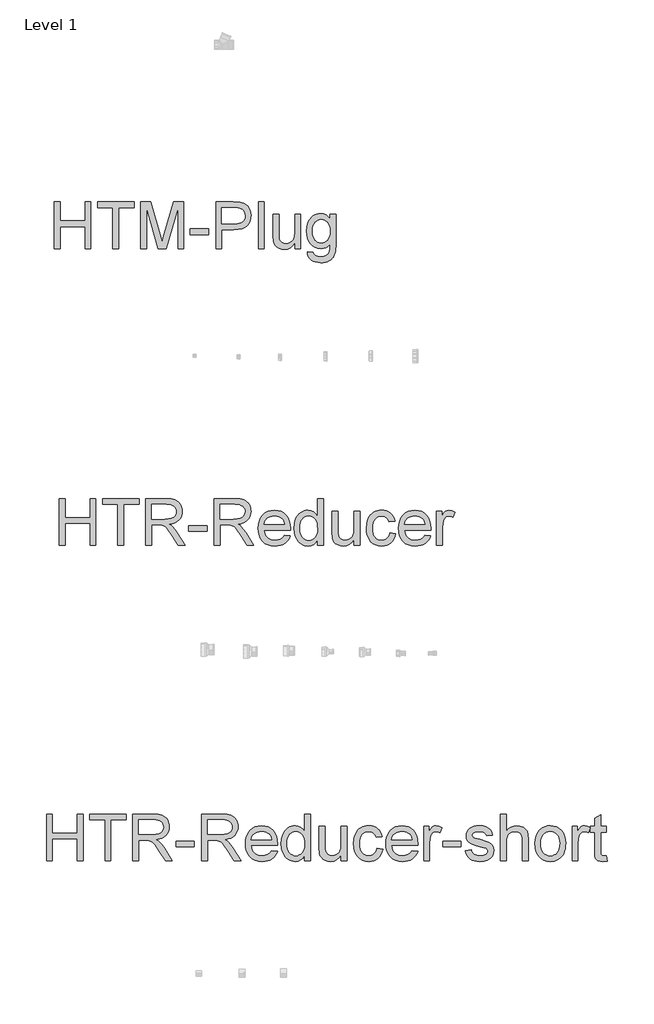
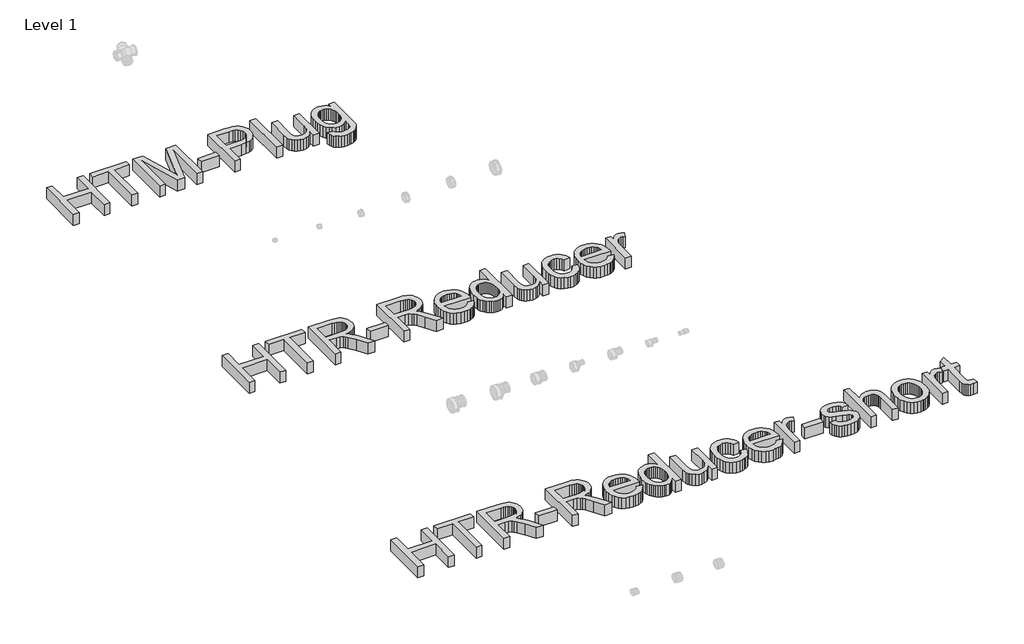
# One storey, part 10 of 29: 3 proxies.
"""IFC4 building model written with IfcOpenShell, lengths in millimetres."""

from ifc_helpers import new_model, si_unit, origin, origin_with_axes, place, context, project, spatial, polyline, outline, extrude, element, save

model = new_model("IFC4")

# Units and contexts
model_context = context("Model", 3, world=origin())
ifc_project = project(units=[si_unit("LENGTHUNIT", "METRE", prefix="MILLI")], contexts=[model_context])

# Site, building, storey
site = spatial("IfcSite", under=ifc_project)
building = spatial("IfcBuilding", under=site)
storey = spatial("IfcBuildingStorey", under=building, Name="Level 1", Elevation=0.0)

# Proxies
placement = place(None, origin())
element("IfcBuildingElementProxy", 1, Name="600mm Arial", ObjectType="600mm Arial", at=placement, inside=storey, context=model_context, shape_type="SweptSolid", body=[
    extrude(outline(polyline([(14896.3265646, -23338.82352), (14896.3265646, -22736.0856591), (14971.6687973, -22736.0856591), (14971.6687973, -22980.9479151), (15291.8732859, -22980.9479151), (15291.8732859, -22736.0856591), (15367.2155185, -22736.0856591), (15367.2155185, -23338.82352), (15291.8732859, -23338.82352), (15291.8732859, -23056.2901477), (14971.6687973, -23056.2901477), (14971.6687973, -23338.82352), (14896.3265646, -23338.82352)])), origin_with_axes(), (0.0, 0.0, 1.0), 150.0),
    extrude(outline(polyline([(15649.7488908, -23338.82352), (15649.7488908, -22811.4278917), (15451.9755302, -22811.4278917), (15451.9755302, -22736.0856591), (15922.864484, -22736.0856591), (15922.864484, -22811.4278917), (15725.0911234, -22811.4278917), (15725.0911234, -23338.82352), (15649.7488908, -23338.82352)])), origin_with_axes(), (0.0, 0.0, 1.0), 150.0),
    extrude(outline(polyline([(16007.6244957, -23338.82352), (16007.6244957, -22736.0856591), (16137.2661108, -22736.0856591), (16260.5801556, -23160.9157871), (16285.4489784, -23249.6489243), (16312.3779405, -23153.5581472), (16433.6318461, -22736.0856591), (16563.2734612, -22736.0856591), (16563.2734612, -23338.82352), (16487.9312286, -23338.82352), (16487.9312286, -22811.4278917), (16336.5109994, -23338.82352), (16234.3869575, -23338.82352), (16082.9667283, -22811.4278917), (16082.9667283, -23338.82352), (16007.6244957, -23338.82352)])), origin_with_axes(), (0.0, 0.0, 1.0), 150.0),
    extrude(outline(polyline([(16648.0334729, -23159.8857175), (16648.0334729, -23084.5434849), (16883.4779498, -23084.5434849), (16883.4779498, -23159.8857175), (16648.0334729, -23159.8857175)])), origin_with_axes(), (0.0, 0.0, 1.0), 150.0),
    extrude(outline(polyline([(16977.6557406, -23338.82352), (16977.6557406, -22736.0856591), (17201.033688, -22736.0856591), (17253.0522021, -22737.5203988), (17291.0912004, -22741.8246182), (17331.2455202, -22752.5483784), (17364.2997175, -22770.004379), (17390.9159798, -22794.9835665), (17411.7564949, -22828.2768871), (17425.2209759, -22867.54829), (17429.7091362, -22910.4617248), (17426.6787083, -22947.4614564), (17417.5874245, -22981.4997381), (17402.4352848, -23012.5765696), (17381.2222893, -23040.6919511), (17352.0998308, -23063.9972755), (17313.2193025, -23080.6439358), (17264.5807042, -23090.6319319), (17206.184036, -23093.961264), (17052.9979732, -23093.961264), (17052.9979732, -23338.82352), (16977.6557406, -23338.82352)]), holes=[polyline([(17052.9979732, -23018.6190314), (17210.5986199, -23018.6190314), (17246.8349964, -23016.889986), (17277.4059902, -23011.7028499), (17302.3116013, -23003.057623), (17321.5518296, -22990.9543053), (17335.9084245, -22975.7147937), (17346.1631351, -22957.6609848), (17352.3159615, -22936.7928786), (17354.3669036, -22913.1104751), (17349.5292554, -22879.2653316), (17335.0163107, -22850.7176888), (17312.6306913, -22829.2333802), (17284.1750189, -22816.5782396), (17255.1123413, -22812.7154787), (17208.8327863, -22811.4278917), (17052.9979732, -22811.4278917), (17052.9979732, -23018.6190314)])]), origin_with_axes(), (0.0, 0.0, 1.0), 150.0),
    extrude(outline(polyline([(17523.886927, -23338.82352), (17523.886927, -22736.0856591), (17599.2291596, -22736.0856591), (17599.2291596, -23338.82352), (17523.886927, -23338.82352)])), origin_with_axes(), (0.0, 0.0, 1.0), 150.0),
    extrude(outline(polyline([(17994.7758808, -23338.82352), (17994.7758808, -23262.7455234), (17967.515825, -23300.1499252), (17935.7676088, -23326.8673551), (17899.5312323, -23342.8978131), (17858.8066954, -23348.241299), (17822.1104664, -23344.4889027), (17787.9526231, -23333.2317136), (17759.2946157, -23316.3091419), (17739.0978942, -23295.5605973), (17725.5046544, -23270.3606807), (17716.6570925, -23240.0839925), (17712.2425085, -23170.0392606), (17712.2425085, -22896.1879034), (17787.5847411, -22896.1879034), (17787.5847411, -23134.5754362), (17788.7251753, -23182.2529428), (17792.1464779, -23211.3891968), (17803.1277554, -23237.0121778), (17821.9449195, -23256.4915294), (17847.3471712, -23268.7971822), (17878.0837119, -23272.8990664), (17910.5860862, -23268.7052117), (17940.9915331, -23256.1236474), (17966.0626911, -23236.313202), (17982.5621986, -23210.4327036), (17991.7224603, -23174.9872734), (17994.7758808, -23126.4820323), (17994.7758808, -22896.1879034), (18070.1181134, -22896.1879034), (18070.1181134, -23338.82352), (17994.7758808, -23338.82352)])), origin_with_axes(), (0.0, 0.0, 1.0), 150.0),
    extrude(outline(polyline([(18154.8781251, -23376.4946363), (18230.2203577, -23385.9124153), (18238.5344908, -23409.456863), (18254.6477222, -23425.6436708), (18286.322362, -23438.2252351), (18327.7826629, -23442.4190898), (18372.0020787, -23437.6734121), (18389.8627495, -23431.7413149), (18404.890729, -23423.4363789), (18427.6994127, -23400.6276952), (18441.6789286, -23370.167066), (18445.7624187, -23337.7566622), (18446.8292765, -23282.3168455), (18421.7581185, -23307.0385156), (18393.7806928, -23324.6968514), (18362.8969993, -23335.2918528), (18329.107038, -23338.82352), (18287.7984885, -23334.7124387), (18251.4287548, -23322.3791948), (18219.9978368, -23301.8237883), (18193.5057346, -23273.0462192), (18172.4858771, -23238.520494), (18157.4716932, -23200.720619), (18148.4631828, -23159.6465942), (18145.460346, -23115.2984197), (18150.8498173, -23054.4691318), (18167.018231, -22998.5326744), (18179.001987, -22973.3097651), (18193.39537, -22951.1310793), (18210.1983801, -22931.9966171), (18229.4110173, -22915.9063783), (18250.7251804, -22903.1592672), (18273.8327683, -22894.0541878), (18298.7337808, -22888.5911402), (18325.4282181, -22886.7701243), (18360.6621162, -22890.8904026), (18392.6402586, -22903.2512377), (18421.3626454, -22923.8526294), (18446.8292765, -22952.6945778), (18446.8292765, -22896.1879034), (18522.1715091, -22896.1879034), (18522.1715091, -23278.34372), (18517.0211612, -23366.5802165), (18510.5832263, -23399.399889), (18501.5701174, -23424.6871776), (18489.7657039, -23445.0816357), (18474.953855, -23463.2228166), (18457.1345709, -23479.1107203), (18436.3078514, -23492.7453467), (18412.6852288, -23503.6898361), (18386.4782352, -23511.5073285), (18357.6868705, -23516.1978239), (18326.3111349, -23517.7613224), (18289.3987752, -23515.558629), (18256.2112207, -23508.9505486), (18226.7484714, -23497.9370814), (18201.0105273, -23482.5182273), (18180.2205961, -23462.6755922), (18165.6018853, -23438.390782), (18157.154395, -23409.6637967), (18154.8781251, -23376.4946363)]), holes=[polyline([(18220.8025787, -23110.1480718), (18222.8121341, -23147.4007223), (18228.8408002, -23179.2547046), (18238.8885772, -23205.7100185), (18252.955465, -23226.7666642), (18270.0573793, -23242.8293118), (18289.2102357, -23254.3026316), (18310.4140342, -23261.1866234), (18333.6687748, -23263.4812874), (18356.6935891, -23261.200419), (18377.7962201, -23254.3578139), (18396.9766676, -23242.953472), (18414.2349317, -23226.9873934), (18428.4949576, -23206.1376814), (18438.6806903, -23180.082439), (18444.7921299, -23148.8216665), (18446.8292765, -23112.3553637), (18444.7323491, -23077.4111727), (18438.441567, -23047.0379155), (18427.9569301, -23021.2355921), (18413.2784385, -23000.0042024), (18395.6476939, -22983.42652), (18376.306298, -22971.5853183), (18355.2542508, -22964.4805972), (18332.4915524, -22962.1123569), (18310.1105315, -22964.443809), (18289.4677531, -22971.4381655), (18270.563217, -22983.0954262), (18253.3969234, -22999.4155912), (18239.1368976, -23020.3250841), (18228.9511648, -23045.7503285), (18222.8397252, -23075.6913244), (18220.8025787, -23110.1480718)])]), origin_with_axes(), (0.0, 0.0, 1.0), 150.0),
])
element("IfcBuildingElementProxy", 2, Name="600mm Arial", ObjectType="600mm Arial", at=placement, inside=storey, context=model_context, shape_type="SweptSolid", body=[
    extrude(outline(polyline([(14960.4744805, -27157.1902945), (14960.4744805, -26554.4524336), (15035.8167131, -26554.4524336), (15035.8167131, -26799.3146896), (15356.0212018, -26799.3146896), (15356.0212018, -26554.4524336), (15431.3634344, -26554.4524336), (15431.3634344, -27157.1902945), (15356.0212018, -27157.1902945), (15356.0212018, -26874.6569222), (15035.8167131, -26874.6569222), (15035.8167131, -27157.1902945), (14960.4744805, -27157.1902945)])), origin_with_axes(), (0.0, 0.0, 1.0), 150.0),
    extrude(outline(polyline([(15713.8968067, -27157.1902945), (15713.8968067, -26629.7946662), (15516.1234461, -26629.7946662), (15516.1234461, -26554.4524336), (15987.0123999, -26554.4524336), (15987.0123999, -26629.7946662), (15789.2390393, -26629.7946662), (15789.2390393, -27157.1902945), (15713.8968067, -27157.1902945)])), origin_with_axes(), (0.0, 0.0, 1.0), 150.0),
    extrude(outline(polyline([(16071.7724116, -27157.1902945), (16071.7724116, -26554.4524336), (16331.4971002, -26554.4524336), (16401.3027087, -26558.5175296), (16452.0888182, -26570.7128178), (16471.6877315, -26580.4065083), (16489.2081115, -26593.2271959), (16504.6499582, -26609.1748804), (16518.0132717, -26628.2495618), (16528.7968127, -26649.4257692), (16536.499342, -26671.6780313), (16541.1208595, -26695.0063484), (16542.6613654, -26719.4107202), (16540.1091841, -26750.3679901), (16532.45264, -26778.7868742), (16519.6917333, -26804.6673726), (16501.8264639, -26828.0094852), (16478.6269056, -26848.068251), (16449.8631321, -26864.0987089), (16415.5351434, -26876.100859), (16375.6429396, -26884.0747013), (16400.4749743, -26900.2982972), (16418.4644038, -26916.301164), (16449.3297032, -26952.9054226), (16479.532815, -26993.8506886), (16580.0381761, -27157.1902945), (16492.4822613, -27157.1902945), (16414.0498199, -27032.2575689), (16357.3959926, -26949.5576964), (16336.3347484, -26925.4430316), (16317.5911607, -26910.4886285), (16281.7594544, -26896.1412307), (16238.0550734, -26893.4924803), (16147.1146442, -26893.4924803), (16147.1146442, -27157.1902945), (16071.7724116, -27157.1902945)]), holes=[polyline([(16147.1146442, -26818.1502477), (16315.7517508, -26818.1502477), (16364.1834154, -26815.4831033), (16401.7625612, -26807.4816699), (16430.0526867, -26793.6125186), (16450.6172902, -26773.3422207), (16463.1436721, -26748.8228857), (16467.3191328, -26722.2066234), (16465.3279715, -26702.9388039), (16459.3544876, -26685.4552121), (16449.3986811, -26669.7558479), (16435.460552, -26655.8407114), (16417.2182036, -26644.4455666), (16394.349739, -26636.3061775), (16366.8551584, -26631.422544), (16334.7344617, -26629.7946662), (16147.1146442, -26629.7946662), (16147.1146442, -26818.1502477)])]), origin_with_axes(), (0.0, 0.0, 1.0), 150.0),
    extrude(outline(polyline([(16627.4213771, -26978.252492), (16627.4213771, -26902.9102594), (16862.865854, -26902.9102594), (16862.865854, -26978.252492), (16627.4213771, -26978.252492)])), origin_with_axes(), (0.0, 0.0, 1.0), 150.0),
    extrude(outline(polyline([(16957.0436448, -27157.1902945), (16957.0436448, -26554.4524336), (17216.7683334, -26554.4524336), (17286.5739419, -26558.5175296), (17337.3600514, -26570.7128178), (17356.9589647, -26580.4065083), (17374.4793447, -26593.2271959), (17389.9211914, -26609.1748804), (17403.2845049, -26628.2495618), (17414.0680459, -26649.4257692), (17421.7705752, -26671.6780313), (17426.3920927, -26695.0063484), (17427.9325986, -26719.4107202), (17425.3804172, -26750.3679901), (17417.7238732, -26778.7868742), (17404.9629665, -26804.6673726), (17387.0976971, -26828.0094852), (17363.8981388, -26848.068251), (17335.1343653, -26864.0987089), (17300.8063766, -26876.100859), (17260.9141728, -26884.0747013), (17285.7462074, -26900.2982972), (17303.735637, -26916.301164), (17334.6009364, -26952.9054226), (17364.8040482, -26993.8506886), (17465.3094093, -27157.1902945), (17377.7534944, -27157.1902945), (17299.3210531, -27032.2575689), (17242.6672258, -26949.5576964), (17221.6059816, -26925.4430316), (17202.8623939, -26910.4886285), (17167.0306876, -26896.1412307), (17123.3263066, -26893.4924803), (17032.3858774, -26893.4924803), (17032.3858774, -27157.1902945), (16957.0436448, -27157.1902945)]), holes=[polyline([(17032.3858774, -26818.1502477), (17201.022984, -26818.1502477), (17249.4546486, -26815.4831033), (17287.0337944, -26807.4816699), (17315.3239199, -26793.6125186), (17335.8885234, -26773.3422207), (17348.4149053, -26748.8228857), (17352.590366, -26722.2066234), (17350.5992047, -26702.9388039), (17344.6257208, -26685.4552121), (17334.6699143, -26669.7558479), (17320.7317852, -26655.8407114), (17302.4894368, -26644.4455666), (17279.6209722, -26636.3061775), (17252.1263916, -26631.422544), (17220.0056949, -26629.7946662), (17032.3858774, -26629.7946662), (17032.3858774, -26818.1502477)])]), origin_with_axes(), (0.0, 0.0, 1.0), 150.0),
    extrude(outline(polyline([(17860.2675193, -27025.3413874), (17934.1382239, -27034.7591665), (17922.812057, -27064.3460759), (17907.5219616, -27090.4197123), (17888.2679377, -27112.9800757), (17865.0499853, -27132.027166), (17838.1072276, -27147.1563131), (17807.6787881, -27157.9628467), (17773.7646667, -27164.4467668), (17736.3648633, -27166.6080735), (17689.6162588, -27162.8786698), (17647.9628199, -27151.6904586), (17611.4045466, -27133.04344), (17579.941439, -27106.9376139), (17554.6403548, -27074.0995473), (17536.5681518, -27035.2558072), (17525.72483, -26990.4063934), (17522.1103894, -26939.5513061), (17525.7616182, -26886.971772), (17536.7153046, -26840.6278376), (17554.9714486, -26800.5195031), (17580.5300502, -26766.6467684), (17611.9103844, -26739.7362004), (17647.6317261, -26720.5143662), (17687.6940754, -26708.9812656), (17732.0974322, -26705.1368988), (17775.0706478, -26708.9720686), (17813.932782, -26720.477578), (17848.683835, -26739.653427), (17879.3238067, -26766.4996156), (17904.3351838, -26800.2987739), (17922.2004532, -26840.333532), (17932.9196148, -26886.60389), (17936.4926687, -26939.1098477), (17936.0512103, -26959.4169339), (17597.452622, -26959.4169339), (17601.8166221, -26989.4820899), (17610.4940387, -27015.8132437), (17623.4848716, -27038.4103953), (17640.789121, -27057.2735446), (17661.4502935, -27072.1451742), (17684.5118961, -27082.7677668), (17709.9739287, -27089.1413224), (17737.8363913, -27091.2658409), (17777.9355288, -27087.3295036), (17811.707096, -27075.5204915), (17839.1510928, -27055.1030408), (17860.2675193, -27025.3413874)]), holes=[polyline([(17597.452622, -26884.0747013), (17861.1504361, -26884.0747013), (17850.9601048, -26844.2698694), (17842.1953163, -26828.6164905), (17830.9841125, -26815.7958029), (17810.4379031, -26800.3447592), (17787.0590023, -26789.3082993), (17760.8474101, -26782.6864234), (17731.8031266, -26780.4791314), (17705.3110244, -26782.2403665), (17681.0170172, -26787.5240716), (17658.9211048, -26796.3302469), (17639.0232874, -26808.6588922), (17622.3260434, -26823.9397906), (17609.8318511, -26841.6027249), (17601.5407106, -26861.6476951), (17597.452622, -26884.0747013)])]), origin_with_axes(), (0.0, 0.0, 1.0), 150.0),
    extrude(outline(polyline([(18284.9504945, -27157.1902945), (18284.9504945, -27086.115493), (18262.4085253, -27121.330997), (18235.1024842, -27146.4849284), (18203.0323713, -27161.5772873), (18166.1981865, -27166.6080735), (18141.3293636, -27164.7870577), (18117.4906103, -27159.32401), (18094.6819266, -27150.2189307), (18072.9033125, -27137.4718195), (18052.8353497, -27121.4643542), (18035.1586198, -27102.5782123), (18019.8731229, -27080.8133937), (18006.978859, -27056.1698986), (17996.7425425, -27029.1167764), (17989.4308878, -27000.1230766), (17983.5815641, -26936.3139446), (17988.9710353, -26873.2957588), (18005.139449, -26816.3844141), (18017.2611608, -26791.0281476), (18032.0684111, -26768.8172722), (18049.5611999, -26749.7517878), (18069.7395274, -26733.8316944), (18091.890622, -26721.2777213), (18115.3017125, -26712.3105977), (18139.9727988, -26706.9303235), (18165.9038809, -26705.1368988), (18202.7656568, -26710.2688526), (18235.3600016, -26725.6647141), (18262.9879394, -26749.2643441), (18284.9504945, -26779.0076034), (18284.9504945, -26554.4524336), (18360.2927272, -26554.4524336), (18360.2927272, -27157.1902945), (18284.9504945, -27157.1902945)]), holes=[polyline([(18058.9237967, -26936.019639), (18061.0483152, -26972.5549196), (18067.4218708, -27004.1697786), (18078.0444634, -27030.8642159), (18092.9160931, -27052.6382314), (18110.6755964, -27069.5378106), (18129.96181, -27081.6089386), (18150.7747339, -27088.8516153), (18173.114368, -27091.2658409), (18195.5597682, -27088.9619799), (18216.248532, -27082.050397), (18235.1806591, -27070.531092), (18252.3561498, -27054.404065), (18266.6161756, -27033.5405574), (18276.8019084, -27007.8118103), (18282.913348, -26977.2178239), (18284.9504945, -26941.7585981), (18282.8765598, -26902.8826683), (18276.6547556, -26869.5433624), (18266.2850818, -26841.7406807), (18251.7675386, -26819.4746229), (18234.2149689, -26802.4140954), (18214.7402158, -26790.2280043), (18193.3432792, -26782.9163496), (18170.0241593, -26780.4791314), (18147.2430667, -26782.8197806), (18126.4301428, -26789.8417282), (18107.5853876, -26801.5449742), (18090.7088011, -26817.9295185), (18076.8028617, -26839.3540462), (18066.8700478, -26866.1772422), (18060.9103595, -26898.3991064), (18058.9237967, -26936.019639)])]), origin_with_axes(), (0.0, 0.0, 1.0), 150.0),
    extrude(outline(polyline([(18755.8394484, -27157.1902945), (18755.8394484, -27081.1122979), (18728.5793925, -27118.5166997), (18696.8311763, -27145.2341296), (18660.5947998, -27161.2645876), (18619.870263, -27166.6080735), (18583.1740339, -27162.8556772), (18549.0161907, -27151.5984881), (18520.3581833, -27134.6759164), (18500.1614617, -27113.9273718), (18486.568222, -27088.7274552), (18477.72066, -27058.450767), (18473.3060761, -26988.4060351), (18473.3060761, -26714.5546779), (18548.6483087, -26714.5546779), (18548.6483087, -26952.9422108), (18549.7887429, -27000.6197173), (18553.2100454, -27029.7559713), (18564.191323, -27055.3789523), (18583.008487, -27074.858304), (18608.4107388, -27087.1639567), (18639.1472795, -27091.2658409), (18671.6496538, -27087.0719862), (18702.0551007, -27074.490422), (18727.1262587, -27054.6799765), (18743.6257661, -27028.7994782), (18752.7860278, -26993.3540479), (18755.8394484, -26944.8488069), (18755.8394484, -26714.5546779), (18831.181681, -26714.5546779), (18831.181681, -27157.1902945), (18755.8394484, -27157.1902945)])), origin_with_axes(), (0.0, 0.0, 1.0), 150.0),
    extrude(outline(polyline([(19217.3106231, -26997.0880502), (19292.6528557, -27006.5058292), (19284.4582843, -27042.0570256), (19271.6467938, -27073.5155347), (19254.2183843, -27100.8813566), (19232.1730557, -27124.1544913), (19206.4397102, -27142.7279335), (19177.9472496, -27155.994678), (19146.6956742, -27163.9547247), (19112.6849837, -27166.6080735), (19070.429138, -27162.906261), (19032.541891, -27151.8008232), (18999.0232428, -27133.2917604), (18969.8731932, -27107.3790723), (18946.2781617, -27074.5502028), (18929.4245678, -27035.2925954), (18919.3124115, -26989.6062501), (18915.9416927, -26937.491167), (18921.6990459, -26870.4446733), (18928.8957374, -26840.2737512), (18938.9711056, -26812.3377122), (18951.9941282, -26787.1975763), (18968.0337832, -26765.4143637), (18987.0900705, -26746.9880743), (19009.1629903, -26731.918708), (19033.2546624, -26720.2016665), (19058.3672071, -26711.8323511), (19084.5006243, -26706.8107619), (19111.6549141, -26705.1368988), (19145.0815919, -26707.4361613), (19175.3168934, -26714.3339487), (19202.3608185, -26725.830261), (19226.2133674, -26741.9250983), (19246.4698698, -26762.2505786), (19262.7256554, -26786.4388197), (19274.9807244, -26814.4898219), (19283.2350767, -26846.4035849), (19207.892844, -26855.821364), (19194.2260279, -26822.9511078), (19172.9440545, -26799.388266), (19145.2241462, -26785.206415), (19112.2435253, -26780.4791314), (19086.643537, -26782.805985), (19063.5543432, -26789.7865459), (19042.9759441, -26801.420814), (19024.9083396, -26817.7087893), (19010.1976584, -26839.0275509), (18999.6900289, -26865.7541779), (18993.3854512, -26897.8886702), (18991.2839253, -26935.4310278), (18993.3394659, -26973.539004), (18999.5060879, -27006.0459768), (19009.7837911, -27032.9519462), (19024.1725757, -27054.2569122), (19041.8814952, -27070.4483185), (19062.1196035, -27082.0136088), (19084.8869004, -27088.9527829), (19110.1833861, -27091.2658409), (19149.1972717, -27085.4900936), (19166.0692597, -27078.2704095), (19181.1846112, -27068.1628516), (19194.1202619, -27055.0570556), (19204.4531474, -27038.8426566), (19212.1832678, -27019.5196548), (19217.3106231, -26997.0880502)])), origin_with_axes(), (0.0, 0.0, 1.0), 150.0),
    extrude(outline(polyline([(19668.481102, -27025.3413874), (19742.3518066, -27034.7591665), (19731.0256397, -27064.3460759), (19715.7355443, -27090.4197123), (19696.4815204, -27112.9800757), (19673.2635679, -27132.027166), (19646.3208103, -27147.1563131), (19615.8923708, -27157.9628467), (19581.9782494, -27164.4467668), (19544.578446, -27166.6080735), (19497.8298415, -27162.8786698), (19456.1764026, -27151.6904586), (19419.6181293, -27133.04344), (19388.1550217, -27106.9376139), (19362.8539375, -27074.0995473), (19344.7817345, -27035.2558072), (19333.9384126, -26990.4063934), (19330.323972, -26939.5513061), (19333.9752008, -26886.971772), (19344.9288873, -26840.6278376), (19363.1850313, -26800.5195031), (19388.7436329, -26766.6467684), (19420.1239671, -26739.7362004), (19455.8453088, -26720.5143662), (19495.9076581, -26708.9812656), (19540.3110149, -26705.1368988), (19583.2842305, -26708.9720686), (19622.1463647, -26720.477578), (19656.8974177, -26739.653427), (19687.5373894, -26766.4996156), (19712.5487665, -26800.2987739), (19730.4140359, -26840.333532), (19741.1331975, -26886.60389), (19744.7062514, -26939.1098477), (19744.264793, -26959.4169339), (19405.6662047, -26959.4169339), (19410.0302048, -26989.4820899), (19418.7076214, -27015.8132437), (19431.6984543, -27038.4103953), (19449.0027037, -27057.2735446), (19469.6638762, -27072.1451742), (19492.7254788, -27082.7677668), (19518.1875114, -27089.1413224), (19546.049974, -27091.2658409), (19586.1491115, -27087.3295036), (19619.9206786, -27075.5204915), (19647.3646755, -27055.1030408), (19668.481102, -27025.3413874)]), holes=[polyline([(19405.6662047, -26884.0747013), (19669.3640188, -26884.0747013), (19659.1736875, -26844.2698694), (19650.408899, -26828.6164905), (19639.1976952, -26815.7958029), (19618.6514858, -26800.3447592), (19595.272585, -26789.3082993), (19569.0609928, -26782.6864234), (19540.0167093, -26780.4791314), (19513.5246071, -26782.2403665), (19489.2305999, -26787.5240716), (19467.1346875, -26796.3302469), (19447.2368701, -26808.6588922), (19430.5396261, -26823.9397906), (19418.0454338, -26841.6027249), (19409.7542933, -26861.6476951), (19405.6662047, -26884.0747013)])]), origin_with_axes(), (0.0, 0.0, 1.0), 150.0),
    extrude(outline(polyline([(19820.048484, -27157.1902945), (19820.048484, -26714.5546779), (19885.9729376, -26714.5546779), (19885.9729376, -26780.037673), (19910.3267256, -26742.0722511), (19932.7675273, -26719.7050258), (19955.2819055, -26708.7789306), (19979.8564227, -26705.1368988), (20017.3803862, -26710.9494343), (20055.4929609, -26728.3870409), (20030.3298325, -26795.9301752), (20003.8423288, -26784.3418924), (19977.3548252, -26780.4791314), (19954.8588412, -26784.1947396), (19934.7540901, -26795.341564), (19918.5121, -26813.0734762), (19907.6043989, -26836.5443475), (19898.4441372, -26878.6300477), (19895.3907166, -26924.5417207), (19895.3907166, -27157.1902945), (19820.048484, -27157.1902945)])), origin_with_axes(), (0.0, 0.0, 1.0), 150.0),
])
element("IfcBuildingElementProxy", 3, Name="600mm Arial", ObjectType="600mm Arial", at=placement, inside=storey, context=model_context, shape_type="SweptSolid", body=[
    extrude(outline(polyline([(14795.2103722, -31217.4578253), (14795.2103722, -30614.7199644), (14870.5526048, -30614.7199644), (14870.5526048, -30859.5822204), (15190.7570935, -30859.5822204), (15190.7570935, -30614.7199644), (15266.0993261, -30614.7199644), (15266.0993261, -31217.4578253), (15190.7570935, -31217.4578253), (15190.7570935, -30934.924453), (14870.5526048, -30934.924453), (14870.5526048, -31217.4578253), (14795.2103722, -31217.4578253)])), origin_with_axes(), (0.0, 0.0, 1.0), 150.0),
    extrude(outline(polyline([(15548.6326984, -31217.4578253), (15548.6326984, -30690.062197), (15350.8593378, -30690.062197), (15350.8593378, -30614.7199644), (15821.7482916, -30614.7199644), (15821.7482916, -30690.062197), (15623.974931, -30690.062197), (15623.974931, -31217.4578253), (15548.6326984, -31217.4578253)])), origin_with_axes(), (0.0, 0.0, 1.0), 150.0),
    extrude(outline(polyline([(15906.5083033, -31217.4578253), (15906.5083033, -30614.7199644), (16166.2329919, -30614.7199644), (16236.0386004, -30618.7850605), (16286.8247099, -30630.9803486), (16306.4236232, -30640.6740392), (16323.9440032, -30653.4947267), (16339.3858499, -30669.4424112), (16352.7491634, -30688.5170926), (16363.5327044, -30709.6933), (16371.2352337, -30731.9455622), (16375.8567512, -30755.2738792), (16377.3972571, -30779.6782511), (16374.8450758, -30810.6355209), (16367.1885317, -30839.0544051), (16354.427625, -30864.9349034), (16336.5623556, -30888.277016), (16313.3627973, -30908.3357818), (16284.5990238, -30924.3662398), (16250.2710351, -30936.3683898), (16210.3788313, -30944.3422321), (16235.210866, -30960.5658281), (16253.2002955, -30976.5686949), (16284.0655949, -31013.1729534), (16314.2687067, -31054.1182195), (16414.7740678, -31217.4578253), (16327.218153, -31217.4578253), (16248.7857116, -31092.5250998), (16192.1318843, -31009.8252272), (16171.0706401, -30985.7105625), (16152.3270524, -30970.7561593), (16116.4953461, -30956.4087615), (16072.7909651, -30953.7600112), (15981.8505359, -30953.7600112), (15981.8505359, -31217.4578253), (15906.5083033, -31217.4578253)]), holes=[polyline([(15981.8505359, -30878.4177786), (16150.4876425, -30878.4177786), (16198.9193071, -30875.7506341), (16236.4984529, -30867.7492007), (16264.7885784, -30853.8800495), (16285.3531819, -30833.6097515), (16297.8795638, -30809.0904166), (16302.0550245, -30782.4741542), (16300.0638632, -30763.2063347), (16294.0903793, -30745.7227429), (16284.1345728, -30730.0233788), (16270.1964437, -30716.1082423), (16251.9540953, -30704.7130975), (16229.0856307, -30696.5737083), (16201.5910501, -30691.6900749), (16169.4703534, -30690.062197), (15981.8505359, -30690.062197), (15981.8505359, -30878.4177786)])]), origin_with_axes(), (0.0, 0.0, 1.0), 150.0),
    extrude(outline(polyline([(16462.1572688, -31038.5200229), (16462.1572688, -30963.1777902), (16697.6017457, -30963.1777902), (16697.6017457, -31038.5200229), (16462.1572688, -31038.5200229)])), origin_with_axes(), (0.0, 0.0, 1.0), 150.0),
    extrude(outline(polyline([(16791.7795365, -31217.4578253), (16791.7795365, -30614.7199644), (17051.5042251, -30614.7199644), (17121.3098336, -30618.7850605), (17172.0959431, -30630.9803486), (17191.6948564, -30640.6740392), (17209.2152364, -30653.4947267), (17224.6570831, -30669.4424112), (17238.0203966, -30688.5170926), (17248.8039376, -30709.6933), (17256.5064669, -30731.9455622), (17261.1279844, -30755.2738792), (17262.6684903, -30779.6782511), (17260.1163089, -30810.6355209), (17252.4597649, -30839.0544051), (17239.6988582, -30864.9349034), (17221.8335888, -30888.277016), (17198.6340305, -30908.3357818), (17169.870257, -30924.3662398), (17135.5422683, -30936.3683898), (17095.6500645, -30944.3422321), (17120.4820992, -30960.5658281), (17138.4715287, -30976.5686949), (17169.3368281, -31013.1729534), (17199.5399399, -31054.1182195), (17300.045301, -31217.4578253), (17212.4893861, -31217.4578253), (17134.0569448, -31092.5250998), (17077.4031175, -31009.8252272), (17056.3418733, -30985.7105625), (17037.5982856, -30970.7561593), (17001.7665793, -30956.4087615), (16958.0621983, -30953.7600112), (16867.1217691, -30953.7600112), (16867.1217691, -31217.4578253), (16791.7795365, -31217.4578253)]), holes=[polyline([(16867.1217691, -30878.4177786), (17035.7588757, -30878.4177786), (17084.1905403, -30875.7506341), (17121.7696861, -30867.7492007), (17150.0598116, -30853.8800495), (17170.6244151, -30833.6097515), (17183.150797, -30809.0904166), (17187.3262577, -30782.4741542), (17185.3350964, -30763.2063347), (17179.3616125, -30745.7227429), (17169.405806, -30730.0233788), (17155.4676769, -30716.1082423), (17137.2253285, -30704.7130975), (17114.3568639, -30696.5737083), (17086.8622833, -30691.6900749), (17054.7415866, -30690.062197), (16867.1217691, -30690.062197), (16867.1217691, -30878.4177786)])]), origin_with_axes(), (0.0, 0.0, 1.0), 150.0),
    extrude(outline(polyline([(17695.003411, -31085.6089182), (17768.8741157, -31095.0266973), (17757.5479487, -31124.6136068), (17742.2578533, -31150.6872432), (17723.0038294, -31173.2476065), (17699.785877, -31192.2946968), (17672.8431193, -31207.4238439), (17642.4146798, -31218.2303775), (17608.5005584, -31224.7142977), (17571.100755, -31226.8756044), (17524.3521505, -31223.1462007), (17482.6987116, -31211.9579895), (17446.1404383, -31193.3109709), (17414.6773307, -31167.2051448), (17389.3762465, -31134.3670782), (17371.3040435, -31095.523338), (17360.4607217, -31050.6739243), (17356.8462811, -30999.818837), (17360.4975099, -30947.2393028), (17371.4511963, -30900.8953685), (17389.7073403, -30860.7870339), (17415.2659419, -30826.9142992), (17446.6462761, -30800.0037313), (17482.3676178, -30780.781897), (17522.4299671, -30769.2487965), (17566.8333239, -30765.4044296), (17609.8065395, -30769.2395994), (17648.6686737, -30780.7451088), (17683.4197267, -30799.9209578), (17714.0596984, -30826.7671464), (17739.0710755, -30860.5663047), (17756.9363449, -30900.6010629), (17767.6555065, -30946.8714208), (17771.2285604, -30999.3773786), (17770.787102, -31019.6844647), (17432.1885137, -31019.6844647), (17436.5525138, -31049.7496208), (17445.2299304, -31076.0807746), (17458.2207633, -31098.6779261), (17475.5250127, -31117.5410754), (17496.1861853, -31132.4127051), (17519.2477878, -31143.0352977), (17544.7098204, -31149.4088533), (17572.572283, -31151.5333718), (17612.6714205, -31147.5970344), (17646.4429877, -31135.7880224), (17673.8869845, -31115.3705717), (17695.003411, -31085.6089182)]), holes=[polyline([(17432.1885137, -30944.3422321), (17695.8863278, -30944.3422321), (17685.6959965, -30904.5374002), (17676.931208, -30888.8840213), (17665.7200042, -30876.0633338), (17645.1737948, -30860.61229), (17621.794894, -30849.5758301), (17595.5833018, -30842.9539542), (17566.5390183, -30840.7466623), (17540.0469161, -30842.5078973), (17515.7529089, -30847.7916025), (17493.6569965, -30856.5977777), (17473.7591791, -30868.9264231), (17457.0619351, -30884.2073215), (17444.5677428, -30901.8702558), (17436.2766023, -30921.915226), (17432.1885137, -30944.3422321)])]), origin_with_axes(), (0.0, 0.0, 1.0), 150.0),
    extrude(outline(polyline([(18119.6863863, -31217.4578253), (18119.6863863, -31146.3830238), (18097.144417, -31181.5985278), (18069.8383759, -31206.7524593), (18037.768263, -31221.8448181), (18000.9340782, -31226.8756044), (17976.0652553, -31225.0545885), (17952.226502, -31219.5915409), (17929.4178183, -31210.4864615), (17907.6392042, -31197.7393504), (17887.5712414, -31181.7318851), (17869.8945115, -31162.8457431), (17854.6090146, -31141.0809246), (17841.7147507, -31116.4374294), (17831.4784342, -31089.3843072), (17824.1667795, -31060.3906075), (17818.3174558, -30996.5814754), (17823.706927, -30933.5632896), (17839.8753407, -30876.651945), (17851.9970525, -30851.2956785), (17866.8043028, -30829.084803), (17884.2970916, -30810.0193186), (17904.4754191, -30794.0992253), (17926.6265137, -30781.5452522), (17950.0376042, -30772.5781285), (17974.7086905, -30767.1978544), (18000.6397726, -30765.4044296), (18037.5015485, -30770.5363835), (18070.0958933, -30785.932245), (18097.7238311, -30809.531875), (18119.6863863, -30839.2751343), (18119.6863863, -30614.7199644), (18195.0286189, -30614.7199644), (18195.0286189, -31217.4578253), (18119.6863863, -31217.4578253)]), holes=[polyline([(17893.6596884, -30996.2871698), (17895.7842069, -31032.8224505), (17902.1577625, -31064.4373094), (17912.7803551, -31091.1317467), (17927.6519848, -31112.9057623), (17945.4114881, -31129.8053414), (17964.6977017, -31141.8764694), (17985.5106256, -31149.1191462), (18007.8502597, -31151.5333718), (18030.2956599, -31149.2295108), (18050.9844237, -31142.3179278), (18069.9165508, -31130.7986228), (18087.0920415, -31114.6715959), (18101.3520673, -31093.8080882), (18111.5378001, -31068.0793412), (18117.6492397, -31037.4853547), (18119.6863863, -31002.0261289), (18117.6124515, -30963.1501991), (18111.3906473, -30929.8108933), (18101.0209735, -30902.0082115), (18086.5034303, -30879.7421537), (18068.9508606, -30862.6816262), (18049.4761075, -30850.4955351), (18028.0791709, -30843.1838805), (18004.760051, -30840.7466623), (17981.9789584, -30843.0873114), (17961.1660345, -30850.109259), (17942.3212793, -30861.812505), (17925.4446928, -30878.1970494), (17911.5387534, -30899.6215771), (17901.6059395, -30926.444773), (17895.6462512, -30958.6666373), (17893.6596884, -30996.2871698)])]), origin_with_axes(), (0.0, 0.0, 1.0), 150.0),
    extrude(outline(polyline([(18590.5753401, -31217.4578253), (18590.5753401, -31141.3798287), (18563.3152842, -31178.7842306), (18531.5670681, -31205.5016605), (18495.3306915, -31221.5321184), (18454.6061547, -31226.8756044), (18417.9099256, -31223.123208), (18383.7520824, -31211.866019), (18355.094075, -31194.9434472), (18334.8973534, -31174.1949027), (18321.3041137, -31148.994986), (18312.4565517, -31118.7182978), (18308.0419678, -31048.6735659), (18308.0419678, -30774.8222087), (18383.3842004, -30774.8222087), (18383.3842004, -31013.2097416), (18384.5246346, -31060.8872482), (18387.9459371, -31090.0235022), (18398.9272147, -31115.6464831), (18417.7443787, -31135.1258348), (18443.1466305, -31147.4314875), (18473.8831712, -31151.5333718), (18506.3855455, -31147.339517), (18536.7909924, -31134.7579528), (18561.8621504, -31114.9475074), (18578.3616578, -31089.067009), (18587.5219195, -31053.6215788), (18590.5753401, -31005.1163377), (18590.5753401, -30774.8222087), (18665.9175727, -30774.8222087), (18665.9175727, -31217.4578253), (18590.5753401, -31217.4578253)])), origin_with_axes(), (0.0, 0.0, 1.0), 150.0),
    extrude(outline(polyline([(19052.0465148, -31057.355581), (19127.3887474, -31066.7733601), (19119.194176, -31102.3245564), (19106.3826855, -31133.7830655), (19088.954276, -31161.1488874), (19066.9089474, -31184.4220221), (19041.1756019, -31202.9954644), (19012.6831413, -31216.2622088), (18981.4315659, -31224.2222555), (18947.4208754, -31226.8756044), (18905.1650297, -31223.1737918), (18867.2777827, -31212.0683541), (18833.7591345, -31193.5592912), (18804.6090849, -31167.6466032), (18781.0140534, -31134.8177336), (18764.1604595, -31095.5601262), (18754.0483032, -31049.8737809), (18750.6775844, -30997.7586978), (18756.4349376, -30930.7122042), (18763.6316291, -30900.541282), (18773.7069973, -30872.605243), (18786.7300199, -30847.4651072), (18802.7696749, -30825.6818945), (18821.8259622, -30807.2556051), (18843.898882, -30792.1862389), (18867.9905541, -30780.4691973), (18893.1030988, -30772.099882), (18919.236516, -30767.0782927), (18946.3908058, -30765.4044296), (18979.8174836, -30767.7036921), (19010.0527851, -30774.6014795), (19037.0967102, -30786.0977919), (19060.9492591, -30802.1926292), (19081.2057615, -30822.5181094), (19097.4615471, -30846.7063506), (19109.7166161, -30874.7573527), (19117.9709684, -30906.6711158), (19042.6287358, -30916.0888949), (19028.9619196, -30883.2186386), (19007.6799462, -30859.6557968), (18979.9600379, -30845.4739459), (18946.979417, -30840.7466623), (18921.3794287, -30843.0735159), (18898.2902349, -30850.0540767), (18877.7118358, -30861.6883448), (18859.6442313, -30877.9763202), (18844.9335501, -30899.2950818), (18834.4259206, -30926.0217087), (18828.1213429, -30958.156201), (18826.019817, -30995.6985586), (18828.0753576, -31033.8065348), (18834.2419796, -31066.3135076), (18844.5196828, -31093.219477), (18858.9084674, -31114.5244431), (18876.6173869, -31130.7158494), (18896.8554952, -31142.2811396), (18919.6227921, -31149.2203137), (18944.9192778, -31151.5333718), (18983.9331634, -31145.7576245), (19000.8051514, -31138.5379403), (19015.9205029, -31128.4303825), (19028.8561536, -31115.3245864), (19039.1890391, -31099.1101875), (19046.9191595, -31079.7871857), (19052.0465148, -31057.355581)])), origin_with_axes(), (0.0, 0.0, 1.0), 150.0),
    extrude(outline(polyline([(19503.2169937, -31085.6089182), (19577.0876983, -31095.0266973), (19565.7615314, -31124.6136068), (19550.471436, -31150.6872432), (19531.2174121, -31173.2476065), (19507.9994596, -31192.2946968), (19481.056702, -31207.4238439), (19450.6282625, -31218.2303775), (19416.7141411, -31224.7142977), (19379.3143377, -31226.8756044), (19332.5657332, -31223.1462007), (19290.9122943, -31211.9579895), (19254.354021, -31193.3109709), (19222.8909134, -31167.2051448), (19197.5898292, -31134.3670782), (19179.5176262, -31095.523338), (19168.6743043, -31050.6739243), (19165.0598637, -30999.818837), (19168.7110925, -30947.2393028), (19179.664779, -30900.8953685), (19197.920923, -30860.7870339), (19223.4795246, -30826.9142992), (19254.8598588, -30800.0037313), (19290.5812005, -30780.781897), (19330.6435498, -30769.2487965), (19375.0469066, -30765.4044296), (19418.0201222, -30769.2395994), (19456.8822564, -30780.7451088), (19491.6333094, -30799.9209578), (19522.2732811, -30826.7671464), (19547.2846582, -30860.5663047), (19565.1499276, -30900.6010629), (19575.8690892, -30946.8714208), (19579.4421431, -30999.3773786), (19579.0006847, -31019.6844647), (19240.4020964, -31019.6844647), (19244.7660965, -31049.7496208), (19253.4435131, -31076.0807746), (19266.434346, -31098.6779261), (19283.7385954, -31117.5410754), (19304.3997679, -31132.4127051), (19327.4613705, -31143.0352977), (19352.9234031, -31149.4088533), (19380.7858657, -31151.5333718), (19420.8850032, -31147.5970344), (19454.6565703, -31135.7880224), (19482.1005672, -31115.3705717), (19503.2169937, -31085.6089182)]), holes=[polyline([(19240.4020964, -30944.3422321), (19504.0999105, -30944.3422321), (19493.9095792, -30904.5374002), (19485.1447907, -30888.8840213), (19473.9335869, -30876.0633338), (19453.3873775, -30860.61229), (19430.0084767, -30849.5758301), (19403.7968845, -30842.9539542), (19374.752601, -30840.7466623), (19348.2604988, -30842.5078973), (19323.9664916, -30847.7916025), (19301.8705792, -30856.5977777), (19281.9727618, -30868.9264231), (19265.2755178, -30884.2073215), (19252.7813255, -30901.8702558), (19244.490185, -30921.915226), (19240.4020964, -30944.3422321)])]), origin_with_axes(), (0.0, 0.0, 1.0), 150.0),
    extrude(outline(polyline([(19654.7843757, -31217.4578253), (19654.7843757, -30774.8222087), (19720.7088293, -30774.8222087), (19720.7088293, -30840.3052039), (19745.0626173, -30802.339782), (19767.503419, -30779.9725566), (19790.0177972, -30769.0464614), (19814.5923144, -30765.4044296), (19852.1162779, -30771.2169652), (19890.2288526, -30788.6545717), (19865.0657242, -30856.197706), (19838.5782205, -30844.6094232), (19812.0907169, -30840.7466623), (19789.5947329, -30844.4622704), (19769.4899818, -30855.6090949), (19753.2479917, -30873.341007), (19742.3402906, -30896.8118783), (19733.1800289, -30938.8975786), (19730.1266083, -30984.8092516), (19730.1266083, -31217.4578253), (19654.7843757, -31217.4578253)])), origin_with_axes(), (0.0, 0.0, 1.0), 150.0),
    extrude(outline(polyline([(19899.6466317, -31038.5200229), (19899.6466317, -30963.1777902), (20135.0911086, -30963.1777902), (20135.0911086, -31038.5200229), (19899.6466317, -31038.5200229)])), origin_with_axes(), (0.0, 0.0, 1.0), 150.0),
    extrude(outline(polyline([(20191.5977831, -31085.6089182), (20266.9400157, -31076.1911392), (20271.4925554, -31093.3712283), (20278.8226041, -31108.4176019), (20288.930162, -31121.33026), (20301.8152288, -31132.1092024), (20317.514593, -31140.6072765), (20336.0650426, -31146.6773294), (20381.7191982, -31151.5333718), (20426.8215308, -31147.0819996), (20444.3511079, -31141.5177845), (20458.5329588, -31133.7278832), (20477.2949405, -31114.3772903), (20481.985436, -31103.5431655), (20483.5489345, -31091.9364886), (20481.9762389, -31081.7645514), (20477.2581523, -31072.7330484), (20458.385806, -31058.091345), (20430.169257, -31048.5264131), (20380.8362814, -31036.6070365), (20312.0791365, -31016.7230146), (20267.3814741, -30999.7452606), (20238.6682844, -30981.2224021), (20217.8645575, -30956.7030671), (20205.227811, -30927.7507541), (20201.0155622, -30895.9289615), (20204.4000765, -30866.7375252), (20214.5536196, -30839.7901691), (20230.5564864, -30816.1537509), (20251.4889719, -30796.8951284), (20272.2926987, -30784.7734167), (20299.3872077, -30774.6014795), (20330.7123596, -30767.7036921), (20364.2080152, -30765.4044296), (20413.2466852, -30769.1016437), (20455.8842084, -30780.1932858), (20490.1708104, -30797.5941042), (20514.1567165, -30820.2188469), (20530.0492186, -30849.741377), (20540.0556089, -30887.8355576), (20464.7133763, -30897.2533367), (20455.2036267, -30873.5433421), (20436.3864627, -30855.6826713), (20408.0779431, -30844.4806645), (20370.0941271, -30840.7466623), (20326.8312045, -30844.3151176), (20297.9892561, -30855.0204837), (20281.7656601, -30870.4715275), (20276.3577948, -30888.277016), (20278.6018749, -30899.8652989), (20285.3341155, -30910.2027829), (20296.8488219, -30919.436621), (20313.4402999, -30926.8310491), (20378.3346838, -30942.8707041), (20488.9200116, -30978.3345284), (20518.129842, -30995.2938884), (20540.2763381, -31018.5072423), (20554.2374598, -31048.0481665), (20558.8911671, -31083.9902375), (20553.4281194, -31121.146319), (20537.0389766, -31156.0951085), (20510.3491378, -31186.0958852), (20473.9840026, -31208.4079282), (20430.0588924, -31222.2586853), (20380.6891286, -31226.8756044), (20340.1393357, -31224.6499183), (20304.7214966, -31217.9728601), (20274.4356114, -31206.8444298), (20249.2816799, -31191.2646273), (20228.7354705, -31171.307029), (20212.2727512, -31147.0452114), (20199.8935221, -31118.4791745), (20191.5977831, -31085.6089182)])), origin_with_axes(), (0.0, 0.0, 1.0), 150.0),
    extrude(outline(polyline([(20643.6511788, -31217.4578253), (20643.6511788, -30614.7199644), (20718.9934114, -30614.7199644), (20718.9934114, -30836.3320783), (20746.6673345, -30805.301232), (20777.744166, -30783.1363418), (20812.223906, -30769.8374077), (20850.1065545, -30765.4044296), (20895.6135573, -30770.2420779), (20934.7194133, -30784.7550226), (20965.5111363, -30807.8028296), (20986.0757399, -30838.2450647), (20997.6640227, -30880.0732475), (21001.5267837, -30937.2788978), (21001.5267837, -31217.4578253), (20926.1845511, -31217.4578253), (20926.1845511, -30945.0779961), (20924.6854319, -30919.6389561), (20920.1880745, -30897.9155243), (20912.6924789, -30879.9077006), (20902.198645, -30865.6154851), (20888.9548931, -30854.7353751), (20873.2095438, -30846.963868), (20854.9625968, -30842.3009637), (20834.2140523, -30840.7466623), (20802.3738656, -30844.940517), (20772.4834535, -30857.5220812), (20747.7249952, -30877.2773444), (20731.28067, -30902.9922958), (20722.065226, -30937.1685332), (20718.9934114, -30982.307654), (20718.9934114, -31217.4578253), (20643.6511788, -31217.4578253)])), origin_with_axes(), (0.0, 0.0, 1.0), 150.0),
    extrude(outline(polyline([(21086.2867954, -30996.140017), (21090.3610885, -30938.8148051), (21102.5839677, -30889.4174502), (21122.9554332, -30847.9479523), (21151.4754849, -30814.4063114), (21180.1886746, -30792.9679881), (21211.8817085, -30777.6549001), (21246.5545866, -30768.4670472), (21284.2073088, -30765.4044296), (21325.7733757, -30769.1338334), (21363.35712, -30780.3220445), (21396.9585418, -30798.9690632), (21426.5776409, -30825.0748893), (21450.7520865, -30857.756606), (21468.0195477, -30896.1312966), (21478.3800243, -30940.1989611), (21481.8335166, -30989.9595995), (21480.3068063, -31030.2886632), (21475.7266755, -31066.0743843), (21468.0931241, -31097.3167627), (21457.4061521, -31124.0157985), (21443.7991168, -31147.0774011), (21427.4053754, -31167.4074799), (21408.2249279, -31185.0060348), (21386.2577742, -31199.8730659), (21362.3592401, -31211.6866765), (21337.3846512, -31220.1249698), (21311.3340074, -31225.1879457), (21284.2073088, -31226.8756044), (21242.0342365, -31223.1599962), (21204.1010043, -31212.0131718), (21170.4076121, -31193.435131), (21140.9540598, -31167.425874), (21117.0371316, -31134.426859), (21099.9536115, -31094.8795445), (21089.7034994, -31048.7839305), (21086.2867954, -30996.140017)]), holes=[polyline([(21161.629028, -30995.9928642), (21163.8087288, -31032.5373419), (21170.3478313, -31064.179792), (21181.2463354, -31090.9202145), (21196.5042411, -31112.7586095), (21215.0638878, -31129.722568), (21235.8676146, -31141.8396812), (21258.9154216, -31149.1099491), (21284.2073088, -31151.5333718), (21309.3704372, -31149.0961536), (21332.3262737, -31141.7844989), (21353.0748183, -31129.5984078), (21371.6160708, -31112.5378803), (21386.8739766, -31090.4833547), (21397.7724807, -31063.3152693), (21404.3115831, -31031.0336243), (21406.491284, -30993.6384194), (21404.2977876, -30958.25277), (21397.7172984, -30927.4380544), (21386.7498164, -30901.1942726), (21371.3953416, -30879.5214245), (21352.7851112, -30862.557466), (21332.0503622, -30850.4403528), (21309.1910948, -30843.1700849), (21284.2073088, -30840.7466623), (21258.9154216, -30843.1608878), (21235.8676146, -30850.4035646), (21215.0638878, -30862.4746926), (21196.5042411, -30879.3742717), (21181.2463354, -30901.1482873), (21170.3478313, -30927.8427246), (21163.8087288, -30959.4575836), (21161.629028, -30995.9928642)])]), origin_with_axes(), (0.0, 0.0, 1.0), 150.0),
    extrude(outline(polyline([(21566.5935283, -31217.4578253), (21566.5935283, -30774.8222087), (21632.5179818, -30774.8222087), (21632.5179818, -30840.3052039), (21656.8717699, -30802.339782), (21679.3125716, -30779.9725566), (21701.8269497, -30769.0464614), (21726.401467, -30765.4044296), (21763.9254305, -30771.2169652), (21802.0380052, -30788.6545717), (21776.8748767, -30856.197706), (21750.387373, -30844.6094232), (21723.8998694, -30840.7466623), (21701.4038854, -30844.4622704), (21681.2991344, -30855.6090949), (21665.0571443, -30873.341007), (21654.1494431, -30896.8118783), (21644.9891814, -30938.8975786), (21641.9357609, -30984.8092516), (21641.9357609, -31217.4578253), (21566.5935283, -31217.4578253)])), origin_with_axes(), (0.0, 0.0, 1.0), 150.0),
    extrude(outline(polyline([(22009.2291449, -31154.6235805), (22018.6469239, -31219.6651173), (21962.2874023, -31226.8756044), (21926.1246021, -31223.7486074), (21899.1588519, -31214.3676166), (21880.1025645, -31199.9098541), (21867.6681531, -31181.5525426), (21860.825548, -31150.0250556), (21858.5446796, -31096.0567669), (21858.5446796, -30850.1644413), (21802.0380052, -30850.1644413), (21802.0380052, -30774.8222087), (21858.5446796, -30774.8222087), (21858.5446796, -30667.2535133), (21933.8869122, -30622.9605211), (21933.8869122, -30774.8222087), (22009.2291449, -30774.8222087), (22009.2291449, -30850.1644413), (21933.8869122, -30850.1644413), (21933.8869122, -31093.8494749), (21937.8600378, -31132.6978136), (21950.7359076, -31146.4566002), (21961.6068206, -31150.2641789), (21976.4140709, -31151.5333718), (22009.2291449, -31154.6235805)])), origin_with_axes(), (0.0, 0.0, 1.0), 150.0),
])

save(model, "model.ifc")
